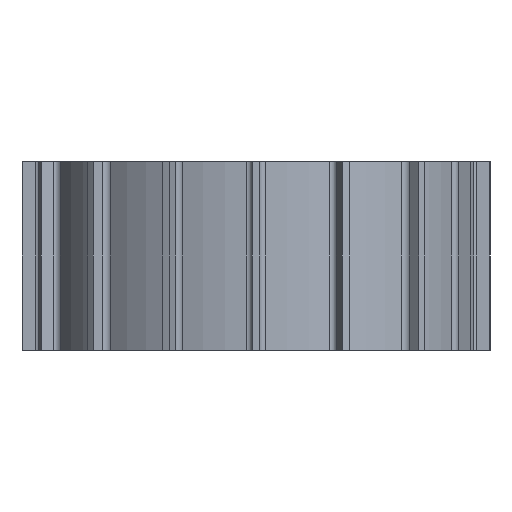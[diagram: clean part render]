
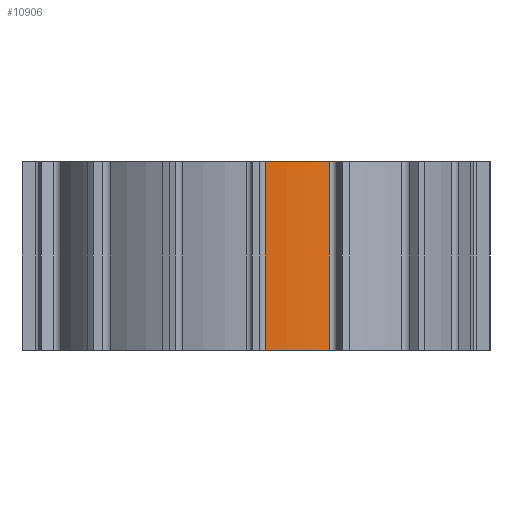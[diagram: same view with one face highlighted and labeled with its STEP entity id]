
A CAD part, front view. The second image highlights one B-rep face of the part: STEP entity #10906.
In plain terms, the highlighted cylindrical face has radius 57 mm (diameter 114 mm), a partial arc.
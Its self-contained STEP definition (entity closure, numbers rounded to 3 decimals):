
#79 = AXIS2_PLACEMENT_3D ( 'NONE', #5894, #9342, #8556 ) ;
#577 = EDGE_CURVE ( 'NONE', #11169, #2278, #4470, .T. ) ;
#1018 = AXIS2_PLACEMENT_3D ( 'NONE', #2965, #8205, #1154 ) ;
#1154 = DIRECTION ( 'NONE',  ( 1., 0., 0. ) ) ;
#1176 = CIRCLE ( 'NONE', #79, 57. ) ;
#1667 = ORIENTED_EDGE ( 'NONE', *, *, #10205, .T. ) ;
#2278 = VERTEX_POINT ( 'NONE', #9777 ) ;
#2714 = CARTESIAN_POINT ( 'NONE',  ( 19.543, -53.545, -7.859 ) ) ;
#2727 = EDGE_CURVE ( 'NONE', #3533, #2278, #10494, .T. ) ;
#2965 = CARTESIAN_POINT ( 'NONE',  ( 0., 0., 50. ) ) ;
#3090 = ORIENTED_EDGE ( 'NONE', *, *, #2727, .T. ) ;
#3213 = CARTESIAN_POINT ( 'NONE',  ( 2.436, -56.948, -7.018 ) ) ;
#3324 = CARTESIAN_POINT ( 'NONE',  ( 0., 0., 50. ) ) ;
#3533 = VERTEX_POINT ( 'NONE', #11067 ) ;
#3968 = DIRECTION ( 'NONE',  ( 0., 0., 1. ) ) ;
#4343 = CYLINDRICAL_SURFACE ( 'NONE', #10958, 57. ) ;
#4470 = CIRCLE ( 'NONE', #1018, 57. ) ;
#4750 = CARTESIAN_POINT ( 'NONE',  ( 2.436, -56.948, 50. ) ) ;
#4987 = ORIENTED_EDGE ( 'NONE', *, *, #577, .F. ) ;
#5063 = VECTOR ( 'NONE', #8010, 1000. ) ;
#5894 = CARTESIAN_POINT ( 'NONE',  ( 0., 0., 0. ) ) ;
#6747 = EDGE_CURVE ( 'NONE', #7976, #11169, #10237, .T. ) ;
#6889 = DIRECTION ( 'NONE',  ( -1., 0., 0. ) ) ;
#7796 = FACE_OUTER_BOUND ( 'NONE', #10954, .T. ) ;
#7976 = VERTEX_POINT ( 'NONE', #8848 ) ;
#8010 = DIRECTION ( 'NONE',  ( 0., 0., 1. ) ) ;
#8205 = DIRECTION ( 'NONE',  ( 0., 0., 1. ) ) ;
#8556 = DIRECTION ( 'NONE',  ( 1., 0., 0. ) ) ;
#8848 = CARTESIAN_POINT ( 'NONE',  ( 2.436, -56.948, 0. ) ) ;
#9342 = DIRECTION ( 'NONE',  ( 0., 0., 1. ) ) ;
#9392 = DIRECTION ( 'NONE',  ( 0., 0., -1. ) ) ;
#9766 = ORIENTED_EDGE ( 'NONE', *, *, #6747, .F. ) ;
#9777 = CARTESIAN_POINT ( 'NONE',  ( 19.543, -53.545, 50. ) ) ;
#10205 = EDGE_CURVE ( 'NONE', #7976, #3533, #1176, .T. ) ;
#10237 = LINE ( 'NONE', #3213, #10648 ) ;
#10494 = LINE ( 'NONE', #2714, #5063 ) ;
#10648 = VECTOR ( 'NONE', #3968, 1000. ) ;
#10906 = ADVANCED_FACE ( 'NONE', ( #7796 ), #4343, .T. ) ;
#10954 = EDGE_LOOP ( 'NONE', ( #1667, #3090, #4987, #9766 ) ) ;
#10958 = AXIS2_PLACEMENT_3D ( 'NONE', #3324, #9392, #6889 ) ;
#11067 = CARTESIAN_POINT ( 'NONE',  ( 19.543, -53.545, 0. ) ) ;
#11169 = VERTEX_POINT ( 'NONE', #4750 ) ;
